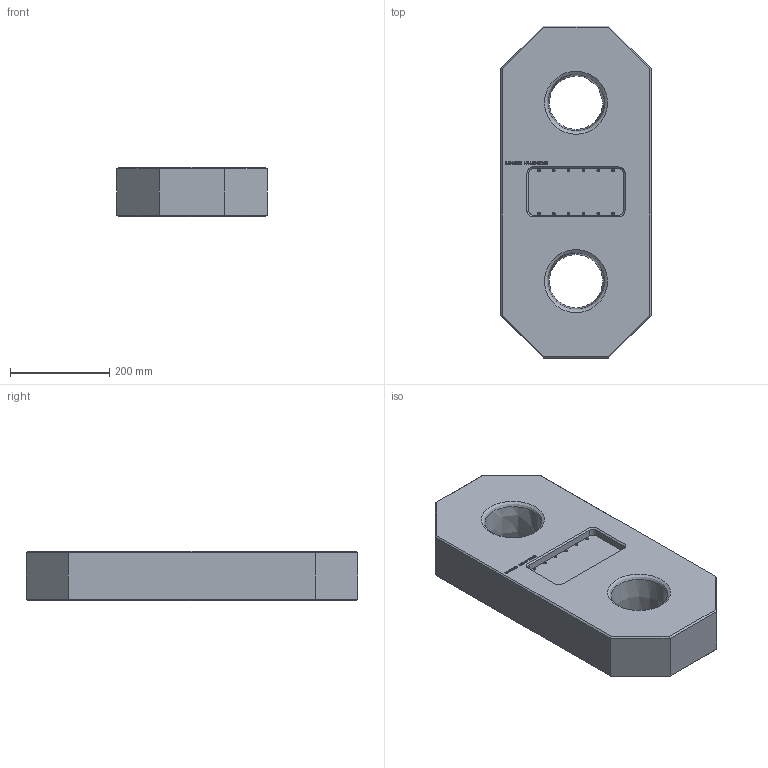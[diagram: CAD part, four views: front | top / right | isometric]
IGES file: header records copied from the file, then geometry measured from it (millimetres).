
Global section: file name: RLP150T; native system: Autodesk Inventor 2016; preprocessor: unknown; author: rdivakaran; date: 20180811.132314; units: metre
Bounding box: 303 x 670 x 99 mm (x, y, z)
Volume: 16072911.6 mm3; surface area: 594745.6 mm2
Topology: 1 solids, 1 shells, 1057 faces, 2957 edges, 1996 vertices
Faces by surface type: bspline 1057
